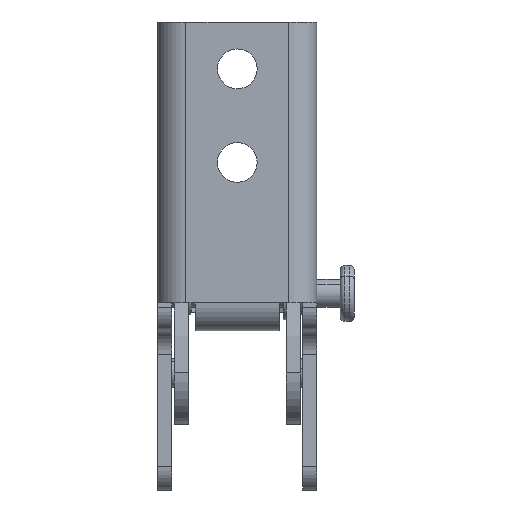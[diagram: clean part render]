
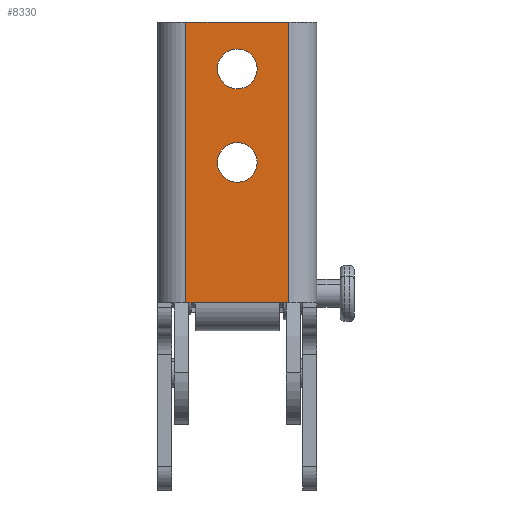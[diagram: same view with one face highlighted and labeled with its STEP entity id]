
A CAD part, front view. The second image highlights one B-rep face of the part: STEP entity #8330.
In plain terms, the highlighted planar face has unit normal (0, -1, 0).
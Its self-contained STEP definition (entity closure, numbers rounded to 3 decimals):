
#639 = LINE ( 'NONE', #4746, #11015 ) ;
#805 = VECTOR ( 'NONE', #1488, 1000. ) ;
#887 = DIRECTION ( 'NONE',  ( 0., -1., 0. ) ) ;
#896 = CARTESIAN_POINT ( 'NONE',  ( 23., -3., 40. ) ) ;
#941 = ORIENTED_EDGE ( 'NONE', *, *, #11472, .F. ) ;
#1006 = VECTOR ( 'NONE', #10041, 1000. ) ;
#1172 = CARTESIAN_POINT ( 'NONE',  ( 0., -3., 100. ) ) ;
#1235 = FACE_BOUND ( 'NONE', #1472, .T. ) ;
#1472 = EDGE_LOOP ( 'NONE', ( #3985, #12780 ) ) ;
#1488 = DIRECTION ( 'NONE',  ( -1., 0., 0. ) ) ;
#1554 = CIRCLE ( 'NONE', #7551, 4.25 ) ;
#1568 = LINE ( 'NONE', #2569, #805 ) ;
#1684 = EDGE_LOOP ( 'NONE', ( #941, #3788 ) ) ;
#1723 = VECTOR ( 'NONE', #5196, 1000. ) ;
#1739 = CARTESIAN_POINT ( 'NONE',  ( 3., -3., 100. ) ) ;
#1953 = LINE ( 'NONE', #6358, #1723 ) ;
#2569 = CARTESIAN_POINT ( 'NONE',  ( 31., -3., 40. ) ) ;
#2666 = CARTESIAN_POINT ( 'NONE',  ( 3., -3., 40. ) ) ;
#2892 = DIRECTION ( 'NONE',  ( 0., -1., 0. ) ) ;
#3366 = VERTEX_POINT ( 'NONE', #5645 ) ;
#3516 = EDGE_CURVE ( 'NONE', #12495, #5973, #1554, .T. ) ;
#3788 = ORIENTED_EDGE ( 'NONE', *, *, #9798, .F. ) ;
#3985 = ORIENTED_EDGE ( 'NONE', *, *, #9967, .F. ) ;
#4005 = ORIENTED_EDGE ( 'NONE', *, *, #12115, .F. ) ;
#4081 = CARTESIAN_POINT ( 'NONE',  ( 5., -3., 40. ) ) ;
#4299 = VERTEX_POINT ( 'NONE', #7644 ) ;
#4317 = LINE ( 'NONE', #8734, #13613 ) ;
#4422 = DIRECTION ( 'NONE',  ( 0., 0., 1. ) ) ;
#4604 = DIRECTION ( 'NONE',  ( 1., 0., 0. ) ) ;
#4625 = DIRECTION ( 'NONE',  ( 0., 1., 0. ) ) ;
#4710 = EDGE_CURVE ( 'NONE', #10195, #9218, #4317, .T. ) ;
#4746 = CARTESIAN_POINT ( 'NONE',  ( 3., -3., 100. ) ) ;
#4849 = EDGE_CURVE ( 'NONE', #13332, #5118, #1568, .T. ) ;
#4904 = DIRECTION ( 'NONE',  ( 0., 0., 1. ) ) ;
#4957 = DIRECTION ( 'NONE',  ( 0., 0., -1. ) ) ;
#5118 = VERTEX_POINT ( 'NONE', #4081 ) ;
#5196 = DIRECTION ( 'NONE',  ( 1., 0., 0. ) ) ;
#5324 = LINE ( 'NONE', #12015, #1006 ) ;
#5333 = LINE ( 'NONE', #9837, #14000 ) ;
#5411 = AXIS2_PLACEMENT_3D ( 'NONE', #13491, #13428, #13363 ) ;
#5562 = ORIENTED_EDGE ( 'NONE', *, *, #4710, .F. ) ;
#5645 = CARTESIAN_POINT ( 'NONE',  ( 14., -3., 65.75 ) ) ;
#5973 = VERTEX_POINT ( 'NONE', #8964 ) ;
#6358 = CARTESIAN_POINT ( 'NONE',  ( 3., -3., 40. ) ) ;
#7494 = AXIS2_PLACEMENT_3D ( 'NONE', #10597, #2892, #4904 ) ;
#7519 = DIRECTION ( 'NONE',  ( 0., -1., 0. ) ) ;
#7551 = AXIS2_PLACEMENT_3D ( 'NONE', #13037, #7519, #11022 ) ;
#7644 = CARTESIAN_POINT ( 'NONE',  ( 25., -3., 40. ) ) ;
#7699 = VERTEX_POINT ( 'NONE', #2666 ) ;
#7836 = PLANE ( 'NONE',  #11273 ) ;
#8330 = ADVANCED_FACE ( 'NONE', ( #1235, #10086, #13274 ), #7836, .F. ) ;
#8645 = CIRCLE ( 'NONE', #7494, 4.25 ) ;
#8734 = CARTESIAN_POINT ( 'NONE',  ( 0., -3., 100. ) ) ;
#8739 = ORIENTED_EDGE ( 'NONE', *, *, #4849, .F. ) ;
#8791 = EDGE_CURVE ( 'NONE', #9218, #4299, #5324, .T. ) ;
#8964 = CARTESIAN_POINT ( 'NONE',  ( 14., -3., 85.75 ) ) ;
#9050 = DIRECTION ( 'NONE',  ( 0., 0., 1. ) ) ;
#9218 = VERTEX_POINT ( 'NONE', #13883 ) ;
#9283 = EDGE_LOOP ( 'NONE', ( #10115, #13668, #8739, #4005, #11219, #5562 ) ) ;
#9762 = DIRECTION ( 'NONE',  ( -1., 0., 0. ) ) ;
#9798 = EDGE_CURVE ( 'NONE', #14338, #3366, #10997, .T. ) ;
#9837 = CARTESIAN_POINT ( 'NONE',  ( 31., -3., 40. ) ) ;
#9945 = CARTESIAN_POINT ( 'NONE',  ( 14., -3., 70. ) ) ;
#9967 = EDGE_CURVE ( 'NONE', #5973, #12495, #10524, .T. ) ;
#10041 = DIRECTION ( 'NONE',  ( 0., 0., -1. ) ) ;
#10086 = FACE_BOUND ( 'NONE', #1684, .T. ) ;
#10115 = ORIENTED_EDGE ( 'NONE', *, *, #10743, .T. ) ;
#10195 = VERTEX_POINT ( 'NONE', #1739 ) ;
#10323 = EDGE_CURVE ( 'NONE', #7699, #5118, #1953, .T. ) ;
#10524 = CIRCLE ( 'NONE', #5411, 4.25 ) ;
#10597 = CARTESIAN_POINT ( 'NONE',  ( 14., -3., 70. ) ) ;
#10743 = EDGE_CURVE ( 'NONE', #10195, #7699, #639, .T. ) ;
#10997 = CIRCLE ( 'NONE', #13075, 4.25 ) ;
#11015 = VECTOR ( 'NONE', #4957, 1000. ) ;
#11022 = DIRECTION ( 'NONE',  ( 0., 0., 1. ) ) ;
#11219 = ORIENTED_EDGE ( 'NONE', *, *, #8791, .F. ) ;
#11273 = AXIS2_PLACEMENT_3D ( 'NONE', #1172, #4625, #9050 ) ;
#11472 = EDGE_CURVE ( 'NONE', #3366, #14338, #8645, .T. ) ;
#11536 = CARTESIAN_POINT ( 'NONE',  ( 14., -3., 74.25 ) ) ;
#11633 = CARTESIAN_POINT ( 'NONE',  ( 14., -3., 94.25 ) ) ;
#12015 = CARTESIAN_POINT ( 'NONE',  ( 25., -3., 100. ) ) ;
#12115 = EDGE_CURVE ( 'NONE', #4299, #13332, #5333, .T. ) ;
#12495 = VERTEX_POINT ( 'NONE', #11633 ) ;
#12780 = ORIENTED_EDGE ( 'NONE', *, *, #3516, .F. ) ;
#13037 = CARTESIAN_POINT ( 'NONE',  ( 14., -3., 90. ) ) ;
#13075 = AXIS2_PLACEMENT_3D ( 'NONE', #9945, #887, #4422 ) ;
#13274 = FACE_OUTER_BOUND ( 'NONE', #9283, .T. ) ;
#13332 = VERTEX_POINT ( 'NONE', #896 ) ;
#13363 = DIRECTION ( 'NONE',  ( 0., 0., 1. ) ) ;
#13428 = DIRECTION ( 'NONE',  ( 0., -1., 0. ) ) ;
#13491 = CARTESIAN_POINT ( 'NONE',  ( 14., -3., 90. ) ) ;
#13613 = VECTOR ( 'NONE', #4604, 1000. ) ;
#13668 = ORIENTED_EDGE ( 'NONE', *, *, #10323, .T. ) ;
#13883 = CARTESIAN_POINT ( 'NONE',  ( 25., -3., 100. ) ) ;
#14000 = VECTOR ( 'NONE', #9762, 1000. ) ;
#14338 = VERTEX_POINT ( 'NONE', #11536 ) ;
